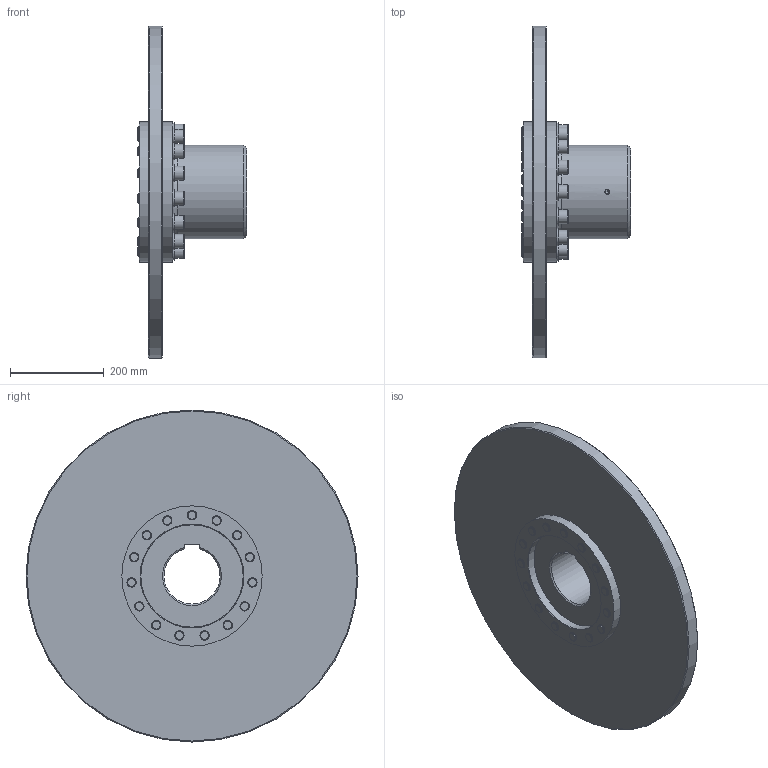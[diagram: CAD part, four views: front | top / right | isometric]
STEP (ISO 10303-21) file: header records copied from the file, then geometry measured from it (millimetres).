
FILE_DESCRIPTION(/* description */ (''),/* implementation_level */ '2;1');
FILE_NAME(/* name */ 'C:\Users\milman01\Desktop\step file\xxxxxx\46821.stp',/* time_stamp */ '2017-03-15T12:50:45+01:00',/* author */ ('milman01'),/* organization */ ('Hillmar Industries Ltd.'),/* preprocessor_version */ 'ST-DEVELOPER v16.1',/* originating_system */ 'Autodesk Inventor 2016',/* authorisation */ '');
FILE_SCHEMA (('AUTOMOTIVE_DESIGN { 1 0 10303 214 3 1 1 }'));
Length unit declared in the file: millimetre
Products named in the file (1): 46821_Shrinkwrap_1
Bounding box: 233.5 x 710 x 710 mm (x, y, z)
Volume: 16908200.1 mm3; surface area: 1227459.2 mm2
Topology: 1 solids, 18 shells, 366 faces, 794 edges, 512 vertices
Faces by surface type: plane 189, cylinder 86, cone 74, torus 17
Full cylindrical faces by diameter (mm): 10.106 x1, 20 x30, 21 x15, 30 x15, 37 x15, 200 x1, 220 x3, 300 x2, 710 x1
Entity records: 8886 total; most frequent: CARTESIAN_POINT 1608, DIRECTION 1442, ORIENTED_EDGE 1116, EDGE_LOOP 622, AXIS2_PLACEMENT_3D 617, EDGE_CURVE 558, VERTEX_POINT 448, STYLED_ITEM 367
